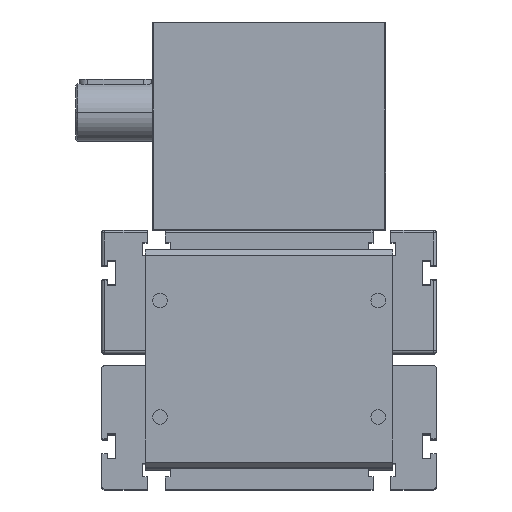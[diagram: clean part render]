
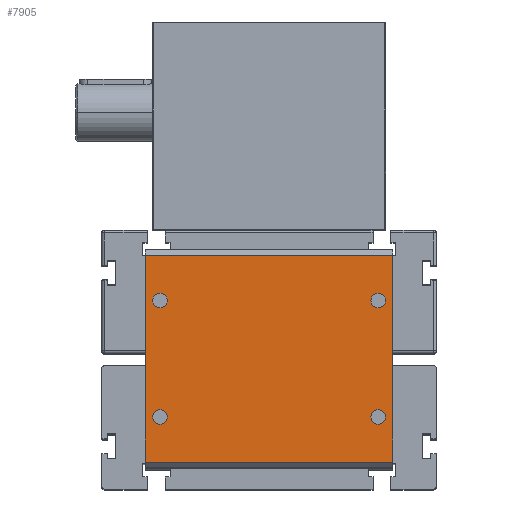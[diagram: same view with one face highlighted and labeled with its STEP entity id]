
A CAD part, top view. The second image highlights one B-rep face of the part: STEP entity #7905.
In plain terms, the highlighted planar face has unit normal (0, 0, 1) as drawn and (-1, 0, 0) by its records, which use the part's own axes.
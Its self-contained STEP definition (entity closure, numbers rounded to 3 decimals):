
#22 = EDGE_LOOP ( 'NONE', ( #19429, #16596 ) ) ;
#187 = DIRECTION ( 'NONE',  ( -1., 0., 0. ) ) ;
#194 = VECTOR ( 'NONE', #1593, 1000. ) ;
#199 = EDGE_CURVE ( 'NONE', #18369, #3602, #4468, .T. ) ;
#289 = DIRECTION ( 'NONE',  ( -1., 0., 0. ) ) ;
#464 = DIRECTION ( 'NONE',  ( -1., 0., 0. ) ) ;
#574 = CARTESIAN_POINT ( 'NONE',  ( -38.5, -40., -80. ) ) ;
#1011 = CIRCLE ( 'NONE', #10857, 5. ) ;
#1025 = VERTEX_POINT ( 'NONE', #1191 ) ;
#1032 = VERTEX_POINT ( 'NONE', #4167 ) ;
#1179 = CARTESIAN_POINT ( 'NONE',  ( -38.5, 40., 75. ) ) ;
#1191 = CARTESIAN_POINT ( 'NONE',  ( -38.5, -40., -70. ) ) ;
#1316 = FACE_BOUND ( 'NONE', #9855, .T. ) ;
#1465 = LINE ( 'NONE', #13568, #5735 ) ;
#1593 = DIRECTION ( 'NONE',  ( 0., -1., 0. ) ) ;
#1959 = DIRECTION ( 'NONE',  ( 0., 0., 1. ) ) ;
#2121 = EDGE_CURVE ( 'NONE', #18369, #1032, #16565, .T. ) ;
#2123 = EDGE_CURVE ( 'NONE', #18583, #7253, #10040, .T. ) ;
#2656 = CARTESIAN_POINT ( 'NONE',  ( -38.5, 40., 70. ) ) ;
#2804 = VERTEX_POINT ( 'NONE', #574 ) ;
#2993 = VERTEX_POINT ( 'NONE', #10092 ) ;
#3098 = CIRCLE ( 'NONE', #4681, 5. ) ;
#3211 = VERTEX_POINT ( 'NONE', #3722 ) ;
#3586 = ORIENTED_EDGE ( 'NONE', *, *, #6485, .F. ) ;
#3602 = VERTEX_POINT ( 'NONE', #16260 ) ;
#3663 = AXIS2_PLACEMENT_3D ( 'NONE', #11850, #19591, #10376 ) ;
#3722 = CARTESIAN_POINT ( 'NONE',  ( -38.5, -71., -85. ) ) ;
#3885 = ORIENTED_EDGE ( 'NONE', *, *, #13994, .F. ) ;
#4029 = DIRECTION ( 'NONE',  ( 0., 0., 1. ) ) ;
#4037 = VERTEX_POINT ( 'NONE', #8317 ) ;
#4167 = CARTESIAN_POINT ( 'NONE',  ( -38.5, 71., -85. ) ) ;
#4396 = FACE_BOUND ( 'NONE', #14080, .T. ) ;
#4468 = LINE ( 'NONE', #12491, #11301 ) ;
#4589 = CIRCLE ( 'NONE', #5224, 5. ) ;
#4681 = AXIS2_PLACEMENT_3D ( 'NONE', #9599, #464, #1959 ) ;
#4774 = CARTESIAN_POINT ( 'NONE',  ( -38.5, -40., 75. ) ) ;
#5115 = CIRCLE ( 'NONE', #6703, 5. ) ;
#5224 = AXIS2_PLACEMENT_3D ( 'NONE', #12666, #15838, #4029 ) ;
#5541 = EDGE_CURVE ( 'NONE', #8716, #2993, #4589, .T. ) ;
#5735 = VECTOR ( 'NONE', #19617, 1000. ) ;
#5762 = DIRECTION ( 'NONE',  ( -1., 0., 0. ) ) ;
#5777 = EDGE_LOOP ( 'NONE', ( #6687, #19305 ) ) ;
#5897 = CARTESIAN_POINT ( 'NONE',  ( -38.5, -40., -75. ) ) ;
#6154 = DIRECTION ( 'NONE',  ( 0., 0., 1. ) ) ;
#6485 = EDGE_CURVE ( 'NONE', #14162, #4037, #9586, .T. ) ;
#6687 = ORIENTED_EDGE ( 'NONE', *, *, #7570, .F. ) ;
#6703 = AXIS2_PLACEMENT_3D ( 'NONE', #5897, #9271, #10465 ) ;
#7249 = DIRECTION ( 'NONE',  ( 0., 0., 1. ) ) ;
#7253 = VERTEX_POINT ( 'NONE', #19634 ) ;
#7396 = CIRCLE ( 'NONE', #3663, 5. ) ;
#7570 = EDGE_CURVE ( 'NONE', #7253, #18583, #7396, .T. ) ;
#7905 = ADVANCED_FACE ( 'NONE', ( #1316, #4396, #19065, #13217, #14604 ), #17781, .F. ) ;
#8317 = CARTESIAN_POINT ( 'NONE',  ( -38.5, -40., 80. ) ) ;
#8401 = AXIS2_PLACEMENT_3D ( 'NONE', #19459, #13312, #10449 ) ;
#8469 = EDGE_CURVE ( 'NONE', #1032, #3211, #9234, .T. ) ;
#8646 = ORIENTED_EDGE ( 'NONE', *, *, #2121, .T. ) ;
#8716 = VERTEX_POINT ( 'NONE', #2656 ) ;
#8944 = EDGE_LOOP ( 'NONE', ( #17828, #15554, #17707, #8646 ) ) ;
#9234 = LINE ( 'NONE', #15081, #194 ) ;
#9271 = DIRECTION ( 'NONE',  ( -1., 0., 0. ) ) ;
#9319 = CARTESIAN_POINT ( 'NONE',  ( -38.5, -40., -75. ) ) ;
#9420 = DIRECTION ( 'NONE',  ( 0., 0., 1. ) ) ;
#9424 = DIRECTION ( 'NONE',  ( 0., -1., 0. ) ) ;
#9586 = CIRCLE ( 'NONE', #18441, 5. ) ;
#9599 = CARTESIAN_POINT ( 'NONE',  ( -38.5, -40., 75. ) ) ;
#9855 = EDGE_LOOP ( 'NONE', ( #15160, #3885 ) ) ;
#10040 = CIRCLE ( 'NONE', #14464, 5. ) ;
#10092 = CARTESIAN_POINT ( 'NONE',  ( -38.5, 40., 80. ) ) ;
#10256 = EDGE_CURVE ( 'NONE', #4037, #14162, #3098, .T. ) ;
#10346 = ORIENTED_EDGE ( 'NONE', *, *, #10256, .F. ) ;
#10376 = DIRECTION ( 'NONE',  ( 0., 0., 1. ) ) ;
#10449 = DIRECTION ( 'NONE',  ( 0., 0., -1. ) ) ;
#10465 = DIRECTION ( 'NONE',  ( 0., 0., 1. ) ) ;
#10857 = AXIS2_PLACEMENT_3D ( 'NONE', #1179, #187, #13877 ) ;
#11293 = CARTESIAN_POINT ( 'NONE',  ( -38.5, -40., 70. ) ) ;
#11301 = VECTOR ( 'NONE', #9424, 1000. ) ;
#11850 = CARTESIAN_POINT ( 'NONE',  ( -38.5, 40., -75. ) ) ;
#12270 = VECTOR ( 'NONE', #14885, 1000. ) ;
#12315 = DIRECTION ( 'NONE',  ( -1., 0., 0. ) ) ;
#12491 = CARTESIAN_POINT ( 'NONE',  ( -38.5, 71., 85. ) ) ;
#12666 = CARTESIAN_POINT ( 'NONE',  ( -38.5, 40., 75. ) ) ;
#12778 = EDGE_CURVE ( 'NONE', #2993, #8716, #1011, .T. ) ;
#13091 = EDGE_CURVE ( 'NONE', #1025, #2804, #5115, .T. ) ;
#13217 = FACE_BOUND ( 'NONE', #5777, .T. ) ;
#13293 = CARTESIAN_POINT ( 'NONE',  ( -38.5, 40., -75. ) ) ;
#13312 = DIRECTION ( 'NONE',  ( 1., 0., 0. ) ) ;
#13365 = CIRCLE ( 'NONE', #14314, 5. ) ;
#13568 = CARTESIAN_POINT ( 'NONE',  ( -38.5, -71., 85. ) ) ;
#13597 = CARTESIAN_POINT ( 'NONE',  ( -38.5, 71., 85. ) ) ;
#13877 = DIRECTION ( 'NONE',  ( 0., 0., 1. ) ) ;
#13994 = EDGE_CURVE ( 'NONE', #2804, #1025, #13365, .T. ) ;
#14080 = EDGE_LOOP ( 'NONE', ( #10346, #3586 ) ) ;
#14162 = VERTEX_POINT ( 'NONE', #11293 ) ;
#14273 = EDGE_CURVE ( 'NONE', #3602, #3211, #1465, .T. ) ;
#14282 = CARTESIAN_POINT ( 'NONE',  ( -38.5, 71., 85. ) ) ;
#14314 = AXIS2_PLACEMENT_3D ( 'NONE', #9319, #289, #9420 ) ;
#14464 = AXIS2_PLACEMENT_3D ( 'NONE', #13293, #5762, #7249 ) ;
#14604 = FACE_OUTER_BOUND ( 'NONE', #8944, .T. ) ;
#14885 = DIRECTION ( 'NONE',  ( 0., 0., -1. ) ) ;
#15081 = CARTESIAN_POINT ( 'NONE',  ( -38.5, 71., -85. ) ) ;
#15160 = ORIENTED_EDGE ( 'NONE', *, *, #13091, .F. ) ;
#15554 = ORIENTED_EDGE ( 'NONE', *, *, #14273, .F. ) ;
#15838 = DIRECTION ( 'NONE',  ( -1., 0., 0. ) ) ;
#16260 = CARTESIAN_POINT ( 'NONE',  ( -38.5, -71., 85. ) ) ;
#16565 = LINE ( 'NONE', #13597, #12270 ) ;
#16596 = ORIENTED_EDGE ( 'NONE', *, *, #5541, .F. ) ;
#17033 = CARTESIAN_POINT ( 'NONE',  ( -38.5, 40., -80. ) ) ;
#17707 = ORIENTED_EDGE ( 'NONE', *, *, #199, .F. ) ;
#17781 = PLANE ( 'NONE',  #8401 ) ;
#17828 = ORIENTED_EDGE ( 'NONE', *, *, #8469, .T. ) ;
#18369 = VERTEX_POINT ( 'NONE', #14282 ) ;
#18441 = AXIS2_PLACEMENT_3D ( 'NONE', #4774, #12315, #6154 ) ;
#18583 = VERTEX_POINT ( 'NONE', #17033 ) ;
#19065 = FACE_BOUND ( 'NONE', #22, .T. ) ;
#19305 = ORIENTED_EDGE ( 'NONE', *, *, #2123, .F. ) ;
#19429 = ORIENTED_EDGE ( 'NONE', *, *, #12778, .F. ) ;
#19459 = CARTESIAN_POINT ( 'NONE',  ( -38.5, 71., 85. ) ) ;
#19591 = DIRECTION ( 'NONE',  ( -1., 0., 0. ) ) ;
#19617 = DIRECTION ( 'NONE',  ( 0., 0., -1. ) ) ;
#19634 = CARTESIAN_POINT ( 'NONE',  ( -38.5, 40., -70. ) ) ;
